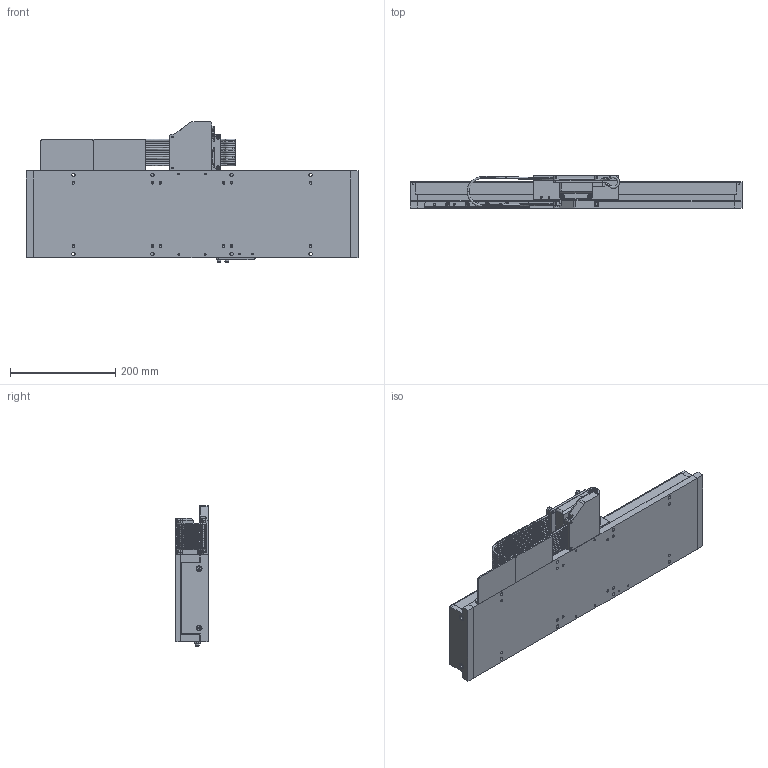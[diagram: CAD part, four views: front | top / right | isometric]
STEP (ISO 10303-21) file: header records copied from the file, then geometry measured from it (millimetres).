
FILE_DESCRIPTION (( 'STEP AP214' ), '1' );
FILE_NAME ('LM3-400-LM-EXPORT.STEP', '2024-05-06T20:32:58', ( 'lab' ), ( '' ), 'SwSTEP 2.0', 'SolidWorks 2018', '' );
FILE_SCHEMA (( 'AUTOMOTIVE_DESIGN' ));
Length unit declared in the file: millimetre
Products named in the file (19): 1000002_file_export14; 1000010_file_export29; 1000008_file_export17; 1000018_file_export35; 1000003_file_export23; 1000014_file_export36; 1000011_file_export28; 1000012_file_export30; 1000009_file_export24; 1000005_file_export22; 1000004_file_export19; 1000001_file_export0; 1000007_file_export4; 1000013_file_export41; 1000017_file_export40; 1000016_file_export33; 1000015_file_export34; 1000006_file_export16; LM3-400-LM-EXPORT
Assembly tree (42 placements, depth 2):
  LM3-400-LM-EXPORT
    1000001_file_export0
    1000002_file_export14
    1000003_file_export23  x2
    1000004_file_export19
    1000005_file_export22  x2
    1000006_file_export16
    1000007_file_export4  x2
    1000008_file_export17  x3
    1000009_file_export24  x6
    1000010_file_export29  x2
    1000011_file_export28  x4
    1000012_file_export30
    1000013_file_export41  x8
    1000014_file_export36
    1000015_file_export34
    1000016_file_export33
    1000017_file_export40  x4
    1000018_file_export35
Bounding box: 630 x 62 x 266 mm (x, y, z)
Volume: 5339740.1 mm3; surface area: 668782 mm2
Topology: 98 solids, 98 shells, 3111 faces, 7151 edges, 4314 vertices
Faces by surface type: plane 1144, cylinder 870, bspline 448, cone 362, torus 287
Entity records: 117253 total; most frequent: CARTESIAN_POINT 53228, DIRECTION 12035, ORIENTED_EDGE 11498, EDGE_CURVE 5749, AXIS2_PLACEMENT_3D 4758, VERTEX_POINT 3533, EDGE_LOOP 2846, CIRCLE 2642
